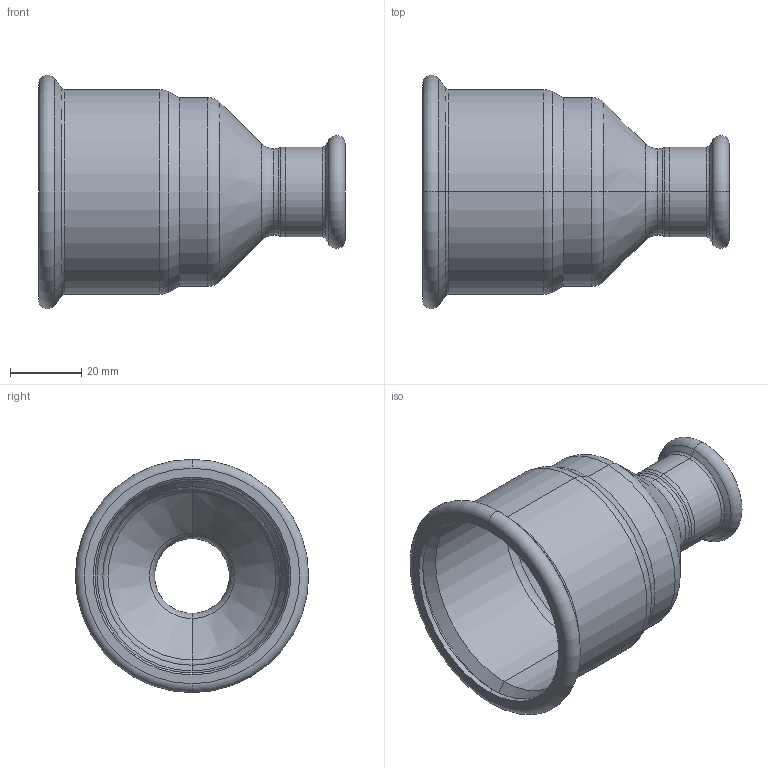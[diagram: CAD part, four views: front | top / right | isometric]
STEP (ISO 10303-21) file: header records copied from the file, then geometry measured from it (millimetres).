
FILE_DESCRIPTION (( 'STEP AP214' ), '1' );
FILE_NAME ('R542200.STEP', '2025-08-17T15:06:48', ( '' ), ( '' ), 'SwSTEP 2.0', 'SolidWorks 2020', '' );
FILE_SCHEMA (( 'AUTOMOTIVE_DESIGN' ));
Length unit declared in the file: millimetre
Products named in the file (1): R542200
Bounding box: 86 x 65.38 x 65.38 mm (x, y, z)
Volume: 21781.6 mm3; surface area: 28382.4 mm2
Topology: 1 solids, 1 shells, 76 faces, 152 edges, 80 vertices
Faces by surface type: torus 36, cone 20, cylinder 16, plane 4
Entity records: 2746 total; most frequent: DIRECTION 422, CARTESIAN_POINT 309, ORIENTED_EDGE 304, AXIS2_PLACEMENT_3D 193, EDGE_CURVE 152, CIRCLE 116, VERTEX_POINT 80, EDGE_LOOP 80
